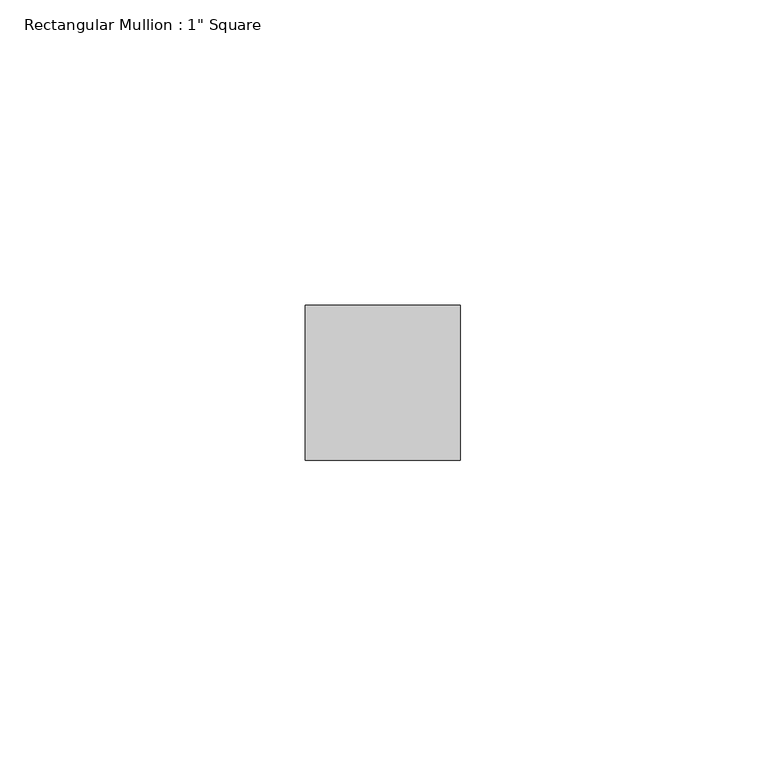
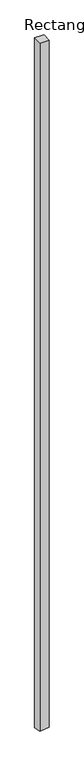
"""IFC4 building model written with IfcOpenShell, lengths in millimetres: member geometry."""

from ifc_helpers import new_model, si_unit, origin, place, context, project, spatial, faceted_brep, source, transform, mapped, element, save


def member_d7af2e9e(model_context):
    return source(origin(), model_context, "Body", "Brep", [
        faceted_brep([(12.7, 12.7, 0.0), (-12.7, 12.7, 0.0), (-12.7, -12.7, 0.0), (12.7, -12.7, 0.0), (12.7, 12.7, -2024.6861723), (-12.7, 12.7, -2026.7630316), (-12.7, -12.7, -2020.9632693), (12.7, -12.7, -2018.8864099)], [[[0, 1, 2, 3]], [[1, 0, 4, 5]], [[2, 1, 5, 6]], [[3, 2, 6, 7]], [[0, 3, 7, 4]], [[4, 7, 6, 5]]]),
    ])


if __name__ == "__main__":
    model = new_model("IFC4")
    model_context = context("Model", 3, world=origin())
    ifc_project = project(units=[si_unit("LENGTHUNIT", "METRE", prefix="MILLI")], contexts=[model_context])
    site = spatial("IfcSite", under=ifc_project)
    building = spatial("IfcBuilding", under=site)
    placement = place(None, origin())
    member_shape = member_d7af2e9e(model_context)
    element("IfcMember", 1, ObjectType="Rectangular Mullion : 1\" Square", at=placement, inside=building, context=model_context, shape_type="MappedRepresentation", body=[
        mapped(member_shape, transform((0.0, 0.0, 0.0), x_axis=(1.0, 0.0, 0.0), y_axis=(0.0, 1.0, 0.0), z_axis=(0.0, 0.0, 1.0))),
    ])
    save(model, "model.ifc")
